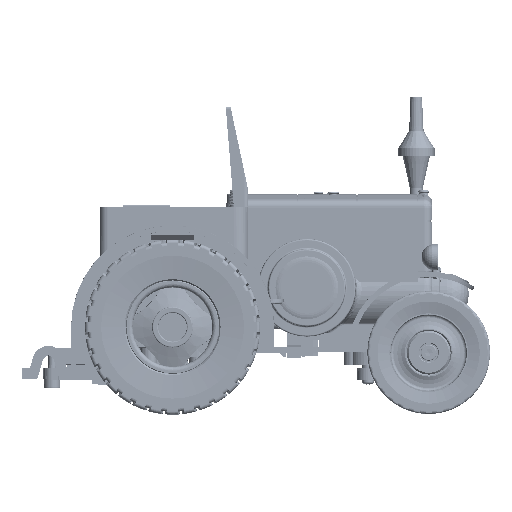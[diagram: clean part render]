
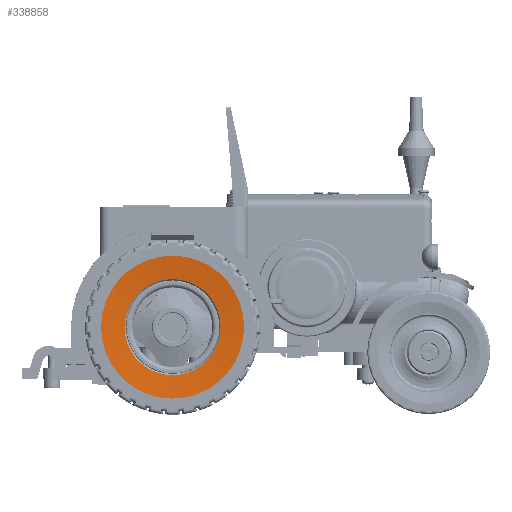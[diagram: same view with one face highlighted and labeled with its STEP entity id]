
A CAD part, left-side view. The second image highlights one B-rep face of the part: STEP entity #338858.
In plain terms, the highlighted conical face has half-angle 84.623 degrees and reference radius 20.25 mm.
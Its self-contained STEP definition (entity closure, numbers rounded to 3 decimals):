
#24736=CONICAL_SURFACE('',#360837,20.25,1.477);
#30445=CIRCLE('',#360833,16.448);
#30448=CIRCLE('',#360838,24.5);
#47237=FACE_OUTER_BOUND('',#65348,.T.);
#65348=EDGE_LOOP('',(#295406,#295407,#295408,#295409));
#98905=LINE('',#634036,#133421);
#133421=VECTOR('',#431684,20.25);
#166903=VERTEX_POINT('',#634025);
#166905=VERTEX_POINT('',#634034);
#213081=EDGE_CURVE('',#166903,#166903,#30445,.T.);
#213086=EDGE_CURVE('',#166905,#166905,#30448,.T.);
#213087=EDGE_CURVE('',#166905,#166903,#98905,.T.);
#295406=ORIENTED_EDGE('',*,*,#213086,.T.);
#295407=ORIENTED_EDGE('',*,*,#213087,.T.);
#295408=ORIENTED_EDGE('',*,*,#213081,.F.);
#295409=ORIENTED_EDGE('',*,*,#213087,.F.);
#338858=ADVANCED_FACE('',(#47237),#24736,.F.);
#360833=AXIS2_PLACEMENT_3D('',#634026,#431670,#431671);
#360837=AXIS2_PLACEMENT_3D('',#634033,#431680,#431681);
#360838=AXIS2_PLACEMENT_3D('',#634035,#431682,#431683);
#431670=DIRECTION('center_axis',(1.,0.,0.));
#431671=DIRECTION('ref_axis',(0.,1.,0.));
#431680=DIRECTION('center_axis',(1.,0.,0.));
#431681=DIRECTION('ref_axis',(0.,1.,0.));
#431682=DIRECTION('center_axis',(1.,0.,0.));
#431683=DIRECTION('ref_axis',(0.,1.,0.));
#431684=DIRECTION('',(-0.094,0.996,0.));
#634025=CARTESIAN_POINT('',(7.242,-16.448,0.));
#634026=CARTESIAN_POINT('Origin',(7.242,0.,0.));
#634033=CARTESIAN_POINT('Origin',(7.6,0.,0.));
#634034=CARTESIAN_POINT('',(8.,-24.5,0.));
#634035=CARTESIAN_POINT('Origin',(8.,0.,0.));
#634036=CARTESIAN_POINT('',(7.6,-20.25,0.));
